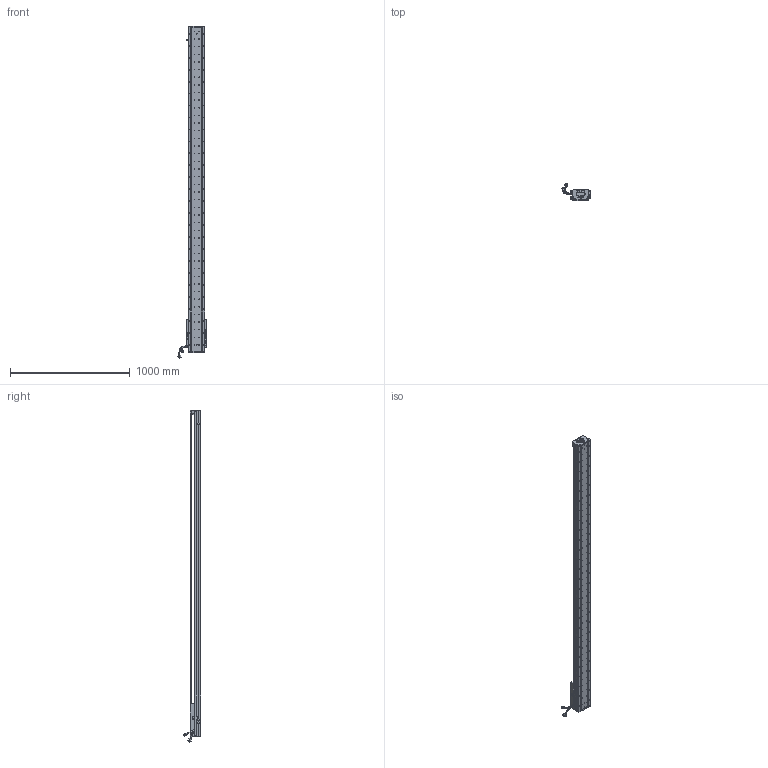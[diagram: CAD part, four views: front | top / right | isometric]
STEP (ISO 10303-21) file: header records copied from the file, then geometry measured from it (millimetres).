
FILE_DESCRIPTION (( 'STEP AP203' ), '1' );
FILE_NAME ('Z3-RY140D-1-L500-B-K.SLDASM_2400.step', '2021-05-17T08:04:59', ( '盈信电脑' ), ( '东莞市道滘镇水果街19号' ), 'SwSTEP 2.0', 'SolidWorks 2016', '' );
FILE_SCHEMA (( 'CONFIG_CONTROL_DESIGN' ));
Length unit declared in the file: millimetre
Products named in the file (36): Z3-RY140D-1-L500-B-K.SLDASM_2400; SCREW-M1.6-1; SCREW-M1.6; Z-RY140感应器672光电感应片; 140-Z-臏賑輸盄裔(21遴); SCALE-Part-1; HARNESS-Part-1; 榋妏寠巭燃_暯_M2_2; Z-RY140詩湍奻揤裔; Z-RY140詩湍狟揤裔; COVER-Part-1; SCREW-M1.7; Z-140詩湍傷裔啣; SCALE-Part-2; LABEL; PSLH080_PSLF2; SEAL; SCREW-M1.6-2; 覜茼ん672; HARNESS-Part-2; LABEL-Part-1; 140蚥薯蝶輸; SCREW-M1.7-1; Z3-RY140圉猾敕臏賑輸(21遴); 080黍杅芛假蚾釱21遴; HOLDER0; SHIELDPLATE; HARNESS; 140雄赽晤鎢ん堤盄; Z3-RY140-L500直线电机模组底座_2400; SCREW-M1.6-3; PBU_SHEET; Z3-RY140-L500詩湍100mm遵_2400; SCALE; COVER; SEAL-Part-1
Assembly tree (41 placements, depth 4):
  Z3-RY140D-1-L500-B-K.SLDASM_2400
    Z3-RY140-L500直线电机模组底座_2400
    Z-RY140感应器672光电感应片
    Z3-RY140圉猾敕臏賑輸(21遴)
    覜茼ん672  x3
    Z3-RY140-L500詩湍100mm遵_2400
    PSLH080_PSLF2
      SCALE
        SCALE-Part-1
        SCALE-Part-2
      HARNESS
        HARNESS-Part-1
        HARNESS-Part-2
      LABEL
        LABEL-Part-1
      COVER
        COVER-Part-1
      SEAL
        SEAL-Part-1
      榋妏寠巭燃_暯_M2_2
      SHIELDPLATE
      SCREW-M1.7
      SCREW-M1.7-1
      PBU_SHEET
      SCREW-M1.6
      SCREW-M1.6-1
      SCREW-M1.6-2
      SCREW-M1.6-3
      HOLDER0
    080黍杅芛假蚾釱21遴
    140-Z-臏賑輸盄裔(21遴)
    Z-140詩湍傷裔啣  x2
    Z-RY140詩湍狟揤裔  x2
    Z-RY140詩湍奻揤裔  x2
    140蚥薯蝶輸  x2
    140雄赽晤鎢ん堤盄
Bounding box: 239.79 x 143.88 x 2775.87 mm (x, y, z)
Volume: 8859481.1 mm3; surface area: 2308894.2 mm2
Topology: 36 solids, 36 shells, 4198 faces, 11438 edges, 7245 vertices
Faces by surface type: cylinder 2284, plane 1382, cone 410, torus 69, bspline 53
Entity records: 133694 total; most frequent: CARTESIAN_POINT 37957, ORIENTED_EDGE 19780, DIRECTION 18258, EDGE_CURVE 9890, AXIS2_PLACEMENT_3D 6794, VERTEX_POINT 6413, LINE 4670, VECTOR 4670
